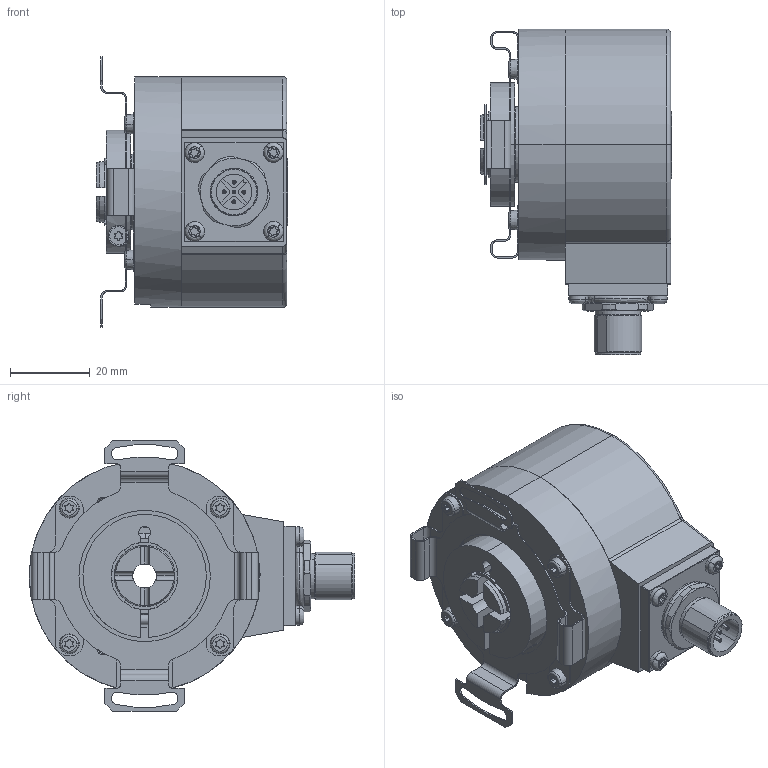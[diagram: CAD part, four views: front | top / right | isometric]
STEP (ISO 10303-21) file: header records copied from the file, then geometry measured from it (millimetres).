
FILE_DESCRIPTION (( 'STEP AP203' ), '1' );
FILE_NAME ('K58I.OXX.XXXXX.XH22506.6XRC3.step', '2025-12-08T14:26:43', ( '' ), ( '' ), 'SwSTEP 2.0', 'SolidWorks 2021', '' );
FILE_SCHEMA (( 'CONFIG_CONTROL_DESIGN' ));
Length unit declared in the file: millimetre
Products named in the file (1): K58I.OXX.XXXXX.XH22506.6XRC3
Bounding box: 48 x 81.8 x 68 mm (x, y, z)
Surface area: 41065.7 mm2 (no closed solid volume)
Topology: 0 solids, 14 shells, 754 faces, 1876 edges, 1175 vertices
Faces by surface type: cylinder 365, plane 272, cone 76, bspline 24, torus 17
Entity records: 24412 total; most frequent: CARTESIAN_POINT 6065, DIRECTION 4061, ORIENTED_EDGE 3708, EDGE_CURVE 1862, AXIS2_PLACEMENT_3D 1593, VERTEX_POINT 1175, LINE 875, VECTOR 875
